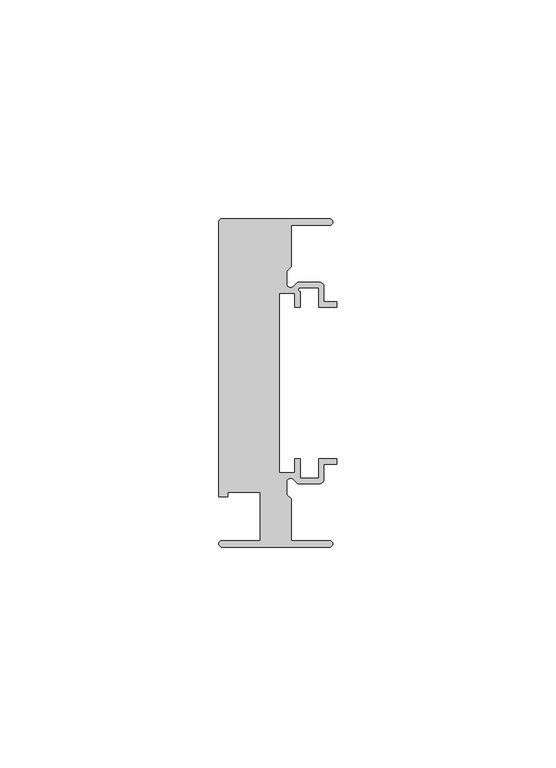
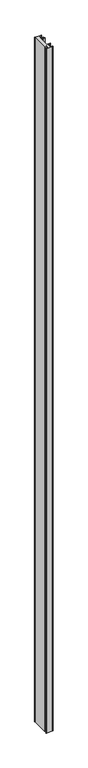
"""IFC4 building model written with IfcOpenShell, lengths in millimetres: member geometry, Прямоугольный импост : 5-AMG-1-Профиль 26Х75 Низ Л."""

import ifcopenshell
import ifcopenshell.guid

model = None  # the IFC model being written
_history = None  # IfcOwnerHistory: only IFC2X3 demands one
_inside = {}  # id of a spatial element -> (the spatial element, [elements in it])
_under = {}  # id of a project, library or spatial element -> (it, [spatial elements below it])
_declared = {}  # id of a project -> (the project, [libraries it declares])
_typed = {}  # id of a type object -> (the type object, [elements of that type])
_made_of = {}  # id of a material, layer set ... -> (it, [elements and type objects made of it])


def new_model(schema):
    """Start an empty IFC model of exactly this schema.

    Asked for "IFC4X3", IfcOpenShell would pick the latest addendum, in which some entities
    have other attributes; the version numbers below select the first issue.
    IFC2X3 requires an IfcOwnerHistory on every rooted entity: one is made here for all.
    """
    global model, _history
    if schema == "IFC4X3":
        model = ifcopenshell.file(schema_version=(4, 3, 0, 0))
    else:
        model = ifcopenshell.file(schema=schema)
    _inside.clear()
    _under.clear()
    _declared.clear()
    _typed.clear()
    _made_of.clear()
    _history = None
    if model.schema == "IFC2X3":
        org = make("IfcOrganization", Name="unknown")
        user = make(
            "IfcPersonAndOrganization",
            ThePerson=make("IfcPerson", FamilyName="unknown"),
            TheOrganization=org,
        )
        app = make(
            "IfcApplication",
            ApplicationDeveloper=org,
            Version="unknown",
            ApplicationFullName="unknown",
            ApplicationIdentifier="unknown",
        )
        _history = make(
            "IfcOwnerHistory",
            OwningUser=user,
            OwningApplication=app,
            ChangeAction="ADDED",
            CreationDate=0,
        )
    return model


def make(cls, **values):
    """One entity of the class cls with the attributes given. An attribute that is None is left unset."""
    return model.create_entity(
        cls, **{name: value for name, value in values.items() if value is not None}
    )


def rooted(cls, **values):
    """An entity with a GlobalId (a new one), such as an element, a storey or a relation."""
    return make(cls, GlobalId=ifcopenshell.guid.new(), OwnerHistory=_history, **values)


def si_unit(unit_type, name, prefix=None):
    """IfcSIUnit, for example si_unit("LENGTHUNIT", "METRE", prefix="MILLI")."""
    return make("IfcSIUnit", UnitType=unit_type, Prefix=prefix, Name=name)


def assignment(units):
    """IfcUnitAssignment: the units of a project."""
    return None if units is None else make("IfcUnitAssignment", Units=units)


def point(xyz):
    """IfcCartesianPoint."""
    return None if xyz is None else make("IfcCartesianPoint", Coordinates=xyz)


def direction(xyz):
    """IfcDirection."""
    return None if xyz is None else make("IfcDirection", DirectionRatios=xyz)


def frame(location, z_axis=None, x_axis=None):
    """IfcAxis2Placement3D, a coordinate frame: its origin and axes. An axis left out is left unset."""
    return make(
        "IfcAxis2Placement3D",
        Location=point(location),
        Axis=direction(z_axis),
        RefDirection=direction(x_axis),
    )


def frame_2d(location, x_axis=None):
    """IfcAxis2Placement2D, a coordinate frame in the plane: its origin and x axis."""
    return make(
        "IfcAxis2Placement2D", Location=point(location), RefDirection=direction(x_axis)
    )


def origin():
    """The frame at (0, 0, 0) with its axes left unset."""
    return frame((0.0, 0.0, 0.0))


def place(relative_to, where):
    """IfcLocalPlacement: puts the frame where relative to a parent placement (None: the world)."""
    return make(
        "IfcLocalPlacement", PlacementRelTo=relative_to, RelativePlacement=where
    )


def context(
    kind, dimensions, precision=None, world=None, true_north=None, identifier=None
):
    """IfcGeometricRepresentationContext, for example the 3D "Model" context."""
    return make(
        "IfcGeometricRepresentationContext",
        ContextIdentifier=identifier,
        ContextType=kind,
        CoordinateSpaceDimension=dimensions,
        Precision=precision,
        WorldCoordinateSystem=world,
        TrueNorth=true_north,
    )


def project(units=None, contexts=None):
    """IfcProject with its units and contexts."""
    return rooted(
        "IfcProject",
        Name="project",
        RepresentationContexts=contexts,
        UnitsInContext=assignment(units),
    )


def spatial(cls, under=None, at=None, **own):
    """A site, building, storey or space (cls), placed at a placement, below another one or the project."""
    s = rooted(cls, ObjectPlacement=at, **own)
    if under is not None:
        _under.setdefault(under.id(), (under, []))[1].append(s)
    return s


def polyline(points):
    """IfcPolyline through the points."""
    return make("IfcPolyline", Points=[point(p) for p in points])


def circle_curve(where, radius):
    """IfcCircle in the frame where."""
    return make("IfcCircle", Position=where, Radius=radius)


def trimmed(basis, trim1, trim2, sense, master):
    """IfcTrimmedCurve: the piece of a basis curve between two trims."""
    return make(
        "IfcTrimmedCurve",
        BasisCurve=basis,
        Trim1=trim1,
        Trim2=trim2,
        SenseAgreement=sense,
        MasterRepresentation=master,
    )


def segment(curve, same_sense, transition):
    """IfcCompositeCurveSegment."""
    return make(
        "IfcCompositeCurveSegment",
        Transition=transition,
        SameSense=same_sense,
        ParentCurve=curve,
    )


def composite_curve(segments, self_intersect=None):
    """IfcCompositeCurve: segments joined end to end."""
    return make("IfcCompositeCurve", Segments=segments, SelfIntersect=self_intersect)


def outline(outer, holes=None, kind="AREA"):
    """IfcArbitraryClosedProfileDef: a profile drawn as a closed curve; with holes, ...WithVoids."""
    if holes is None:
        return make("IfcArbitraryClosedProfileDef", ProfileType=kind, OuterCurve=outer)
    return make(
        "IfcArbitraryProfileDefWithVoids",
        ProfileType=kind,
        OuterCurve=outer,
        InnerCurves=holes,
    )


def extrude(swept, where, along, depth):
    """IfcExtrudedAreaSolid: the profile swept, set in the frame where, extruded along a direction by depth."""
    return make(
        "IfcExtrudedAreaSolid",
        SweptArea=swept,
        Position=where,
        ExtrudedDirection=direction(along),
        Depth=depth,
    )


def shape(context_of_items, identifier, shape_type, items):
    """IfcShapeRepresentation: the items that make up one representation, for example the "Body"."""
    return make(
        "IfcShapeRepresentation",
        ContextOfItems=context_of_items,
        RepresentationIdentifier=identifier,
        RepresentationType=shape_type,
        Items=items,
    )


def source(mapping_origin, context_of_items, identifier, shape_type, items):
    """IfcRepresentationMap: a shape defined once, which mapped items show again and again."""
    return make(
        "IfcRepresentationMap",
        MappingOrigin=mapping_origin,
        MappedRepresentation=shape(context_of_items, identifier, shape_type, items),
    )


def transform(
    local_origin,
    x_axis=None,
    y_axis=None,
    z_axis=None,
    scale=None,
    scale2=None,
    scale3=None,
    uniform=True,
):
    """IfcCartesianTransformationOperator3D, or its non-uniform kind. x_axis, y_axis, z_axis: its Axis1, 2, 3."""
    if uniform:
        return make(
            "IfcCartesianTransformationOperator3D",
            Axis1=direction(x_axis),
            Axis2=direction(y_axis),
            LocalOrigin=point(local_origin),
            Scale=scale,
            Axis3=direction(z_axis),
        )
    return make(
        "IfcCartesianTransformationOperator3DnonUniform",
        Axis1=direction(x_axis),
        Axis2=direction(y_axis),
        LocalOrigin=point(local_origin),
        Scale=scale,
        Axis3=direction(z_axis),
        Scale2=scale2,
        Scale3=scale3,
    )


def mapped(mapping_source, mapping_target):
    """IfcMappedItem: shows the shape of a source again, moved by a transform."""
    return make(
        "IfcMappedItem", MappingSource=mapping_source, MappingTarget=mapping_target
    )


def made_of(thing, what):
    """Note that an element or type object is made of a material, layer set ...; save() writes the relation."""
    if what is not None:
        _made_of.setdefault(what.id(), (what, []))[1].append(thing)
    return thing


def element(
    cls,
    number,
    at=None,
    inside=None,
    cuts=None,
    type_object=None,
    material=None,
    context=None,
    identifier="Body",
    shape_type=None,
    held_by="IfcProductDefinitionShape",
    body=None,
    shapes=None,
    **own,
):
    """One element of the class cls, such as IfcWall. Its Tag is "e" and its number.

    at: its placement. inside: the storey or other place that contains it. cuts: it is an
    opening in that element (IfcRelVoidsElement). A single representation is given by context,
    identifier, shape_type and body (its items); several are given by shapes. held_by: the class
    of the entity that holds the representations. save() writes the other relations.
    """
    e = rooted(cls, Tag="e%d" % number, ObjectPlacement=at, **own)
    if body is not None:
        shapes = [shape(context, identifier, shape_type, body)]
    if shapes is not None:
        e.Representation = make(held_by, Representations=shapes)
    if inside is not None:
        _inside.setdefault(inside.id(), (inside, []))[1].append(e)
    if cuts is not None:
        rooted(
            "IfcRelVoidsElement", RelatingBuildingElement=cuts, RelatedOpeningElement=e
        )
    if type_object is not None:
        _typed.setdefault(type_object.id(), (type_object, []))[1].append(e)
    return made_of(e, material)


def aggregate(whole, parts):
    """IfcRelAggregates: a whole, such as a stair, and the parts it consists of."""
    return rooted("IfcRelAggregates", RelatingObject=whole, RelatedObjects=parts)


def save(model, path):
    """Write the relations noted so far, then the file.

    IfcRelAggregates (storeys below a building ...), IfcRelContainedInSpatialStructure (elements
    in a storey), IfcRelDefinesByType, IfcRelAssociatesMaterial and IfcRelDeclares: one each for
    every whole, place, type object, material and project.
    """
    for whole, parts in _under.values():
        aggregate(whole, parts)
    for where, things in _inside.values():
        rooted(
            "IfcRelContainedInSpatialStructure",
            RelatedElements=things,
            RelatingStructure=where,
        )
    for kind, things in _typed.values():
        rooted("IfcRelDefinesByType", RelatedObjects=things, RelatingType=kind)
    for what, things in _made_of.values():
        rooted("IfcRelAssociatesMaterial", RelatedObjects=things, RelatingMaterial=what)
    for by, libraries in _declared.values():
        rooted("IfcRelDeclares", RelatingContext=by, RelatedDefinitions=libraries)
    model.write(path)


def member_a1fea0b4(model_context):
    return source(origin(), model_context, "Body", "SweptSolid", [
        extrude(outline(composite_curve([segment(polyline([(-1.7, -37.5), (-26.25, -37.5)]), True, "CONTINUOUS"), segment(trimmed(circle_curve(frame_2d((-26.25, -36.75)), 0.75), [point((-26.25, -37.5))], [point((-26.25, -36.0))], False, "CARTESIAN"), True, "CONTINUOUS"), segment(polyline([(-26.25, -36.0), (-17.5, -36.0), (-17.5, -25.0), (-24.9359877, -25.0), (-24.9359877, -26.0), (-27.0, -26.0), (-27.0, 36.75)]), True, "CONTINUOUS"), segment(trimmed(circle_curve(frame_2d((-26.25, 36.75)), 0.75), [point((-27.0, 36.75))], [point((-26.25, 37.5))], False, "CARTESIAN"), True, "CONTINUOUS"), segment(polyline([(-26.25, 37.5), (-1.7, 37.5)]), True, "CONTINUOUS"), segment(trimmed(circle_curve(frame_2d((-1.7, 36.75)), 0.75), [point((-1.7, 37.5))], [point((-1.7, 36.0))], False, "CARTESIAN"), True, "CONTINUOUS"), segment(polyline([(-1.7, 36.0), (-10.5, 36.0), (-10.5, 26.5029437), (-11.5, 25.5029437), (-11.5, 22.6727922)]), True, "CONTINUOUS"), segment(trimmed(circle_curve(frame_2d((-10.6, 22.6727922)), 0.9), [point((-11.5, 22.6727922))], [point((-9.9636039, 22.0363961))], True, "CARTESIAN"), True, "CONTINUOUS"), segment(polyline([(-9.9636039, 22.0363961), (-9.0, 23.0), (-4.0, 23.0)]), True, "CONTINUOUS"), segment(trimmed(circle_curve(frame_2d((-4.0, 22.0)), 1.0), [point((-4.0, 23.0))], [point((-3.0, 22.0))], False, "CARTESIAN"), True, "CONTINUOUS"), segment(polyline([(-3.0, 22.0), (-3.0, 18.55), (0.0, 18.55), (0.0, 17.35), (-4.2, 17.35), (-4.2, 21.8), (-8.5029437, 21.8)]), True, "CONTINUOUS"), segment(trimmed(circle_curve(frame_2d((-8.3343131, 21.3314262)), 0.4979937), [point((-8.5029437, 21.8))], [point((-8.45, 20.8470563))], True, "CARTESIAN"), True, "CONTINUOUS"), segment(polyline([(-8.45, 20.8470563), (-8.45, 17.35), (-9.65, 17.35), (-9.65, 20.55), (-13.15, 20.55), (-13.15, -20.55), (-9.65, -20.55), (-9.65, -17.35), (-8.45, -17.35), (-8.45, -21.8), (-4.2, -21.8), (-4.2, -17.35), (0.0, -17.35), (0.0, -18.55), (-3.0, -18.55), (-3.0, -22.0)]), True, "CONTINUOUS"), segment(trimmed(circle_curve(frame_2d((-4.0, -22.0)), 1.0), [point((-3.0, -22.0))], [point((-4.0, -23.0))], False, "CARTESIAN"), True, "CONTINUOUS"), segment(polyline([(-4.0, -23.0), (-9.0, -23.0), (-9.9636039, -22.0363961)]), True, "CONTINUOUS"), segment(trimmed(circle_curve(frame_2d((-10.6, -22.6727922)), 0.9), [point((-9.9636039, -22.0363961))], [point((-11.5, -22.6727922))], True, "CARTESIAN"), True, "CONTINUOUS"), segment(polyline([(-11.5, -22.6727922), (-11.5, -25.5029437), (-10.5, -26.5029437), (-10.5, -36.0), (-1.7, -36.0)]), True, "CONTINUOUS"), segment(trimmed(circle_curve(frame_2d((-1.7, -36.75)), 0.75), [point((-1.7, -36.0))], [point((-1.7, -37.5))], False, "CARTESIAN"), True, "CONTINUOUS")], self_intersect=False)), frame((0.0, 0.0, -2746.0), z_axis=(0.0, 0.0, 1.0), x_axis=(1.0, 0.0, 0.0)), (0.0, 0.0, 1.0), 2746.0),
    ])


if __name__ == "__main__":
    model = new_model("IFC4")
    model_context = context("Model", 3, world=origin())
    ifc_project = project(units=[si_unit("LENGTHUNIT", "METRE", prefix="MILLI")], contexts=[model_context])
    site = spatial("IfcSite", under=ifc_project)
    building = spatial("IfcBuilding", under=site)
    placement = place(None, origin())
    member_shape = member_a1fea0b4(model_context)
    element("IfcMember", 1, ObjectType="Прямоугольный импост : 5-AMG-1-Профиль 26Х75 Низ Л", at=placement, inside=building, context=model_context, shape_type="MappedRepresentation", body=[
        mapped(member_shape, transform((0.0, 0.0, 0.0), x_axis=(1.0, 0.0, 0.0), y_axis=(0.0, 1.0, 0.0), z_axis=(0.0, 0.0, 1.0))),
    ])
    save(model, "model.ifc")
